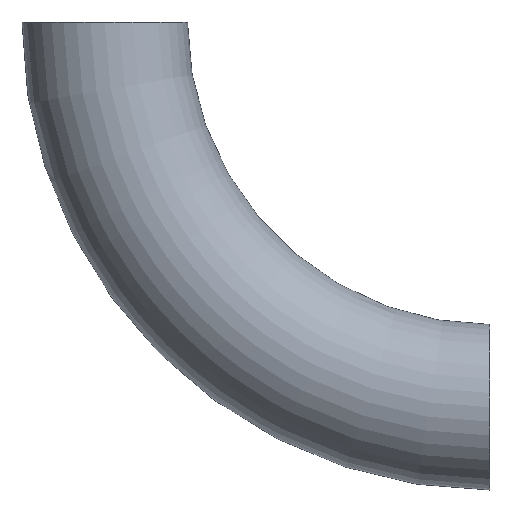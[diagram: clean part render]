
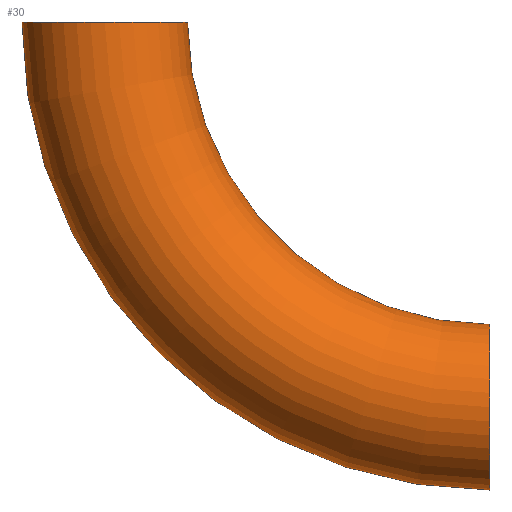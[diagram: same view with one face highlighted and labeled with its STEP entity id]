
A CAD part, front view. The second image highlights one B-rep face of the part: STEP entity #30.
In plain terms, the highlighted toroidal (fillet/blend) face has major radius 510 mm and minor radius 109.55 mm.
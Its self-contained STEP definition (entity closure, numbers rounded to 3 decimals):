
#5 = ORIENTED_EDGE ( 'NONE', *, *, #119, .F. ) ;
#6 = EDGE_LOOP ( 'NONE', ( #5, #180, #81, #160 ) ) ;
#8 = DIRECTION ( 'NONE',  ( 0., 0., 1. ) ) ;
#13 = CIRCLE ( 'NONE', #191, 619.55 ) ;
#20 = AXIS2_PLACEMENT_3D ( 'NONE', #245, #145, #93 ) ;
#23 = DIRECTION ( 'NONE',  ( 0., 1., 0. ) ) ;
#30 = ADVANCED_FACE ( 'NONE', ( #200 ), #198, .T. ) ;
#35 = CIRCLE ( 'NONE', #168, 109.55 ) ;
#38 = CIRCLE ( 'NONE', #182, 109.55 ) ;
#48 = CARTESIAN_POINT ( 'NONE',  ( 0., 0., -400.45 ) ) ;
#50 = CARTESIAN_POINT ( 'NONE',  ( -400.45, 0., 0. ) ) ;
#51 = CARTESIAN_POINT ( 'NONE',  ( 0., 0., 0. ) ) ;
#70 = DIRECTION ( 'NONE',  ( 0., 0., 1. ) ) ;
#80 = CIRCLE ( 'NONE', #20, 400.45 ) ;
#81 = ORIENTED_EDGE ( 'NONE', *, *, #113, .T. ) ;
#82 = VERTEX_POINT ( 'NONE', #88 ) ;
#88 = CARTESIAN_POINT ( 'NONE',  ( 0., 0., -619.55 ) ) ;
#93 = DIRECTION ( 'NONE',  ( 0., 0., 1. ) ) ;
#102 = VERTEX_POINT ( 'NONE', #223 ) ;
#106 = DIRECTION ( 'NONE',  ( 0., 0., 1. ) ) ;
#113 = EDGE_CURVE ( 'NONE', #197, #141, #80, .T. ) ;
#119 = EDGE_CURVE ( 'NONE', #82, #102, #13, .T. ) ;
#124 = EDGE_CURVE ( 'NONE', #82, #197, #35, .T. ) ;
#141 = VERTEX_POINT ( 'NONE', #50 ) ;
#144 = DIRECTION ( 'NONE',  ( 1., 0., 0. ) ) ;
#145 = DIRECTION ( 'NONE',  ( 0., 1., 0. ) ) ;
#160 = ORIENTED_EDGE ( 'NONE', *, *, #165, .F. ) ;
#163 = DIRECTION ( 'NONE',  ( -1., 0., 0. ) ) ;
#165 = EDGE_CURVE ( 'NONE', #102, #141, #38, .T. ) ;
#168 = AXIS2_PLACEMENT_3D ( 'NONE', #209, #163, #222 ) ;
#180 = ORIENTED_EDGE ( 'NONE', *, *, #124, .T. ) ;
#182 = AXIS2_PLACEMENT_3D ( 'NONE', #188, #8, #144 ) ;
#188 = CARTESIAN_POINT ( 'NONE',  ( -510., 0., 0. ) ) ;
#191 = AXIS2_PLACEMENT_3D ( 'NONE', #51, #242, #70 ) ;
#197 = VERTEX_POINT ( 'NONE', #48 ) ;
#198 = TOROIDAL_SURFACE ( 'NONE', #227, 510., 109.55 ) ;
#200 = FACE_OUTER_BOUND ( 'NONE', #6, .T. ) ;
#202 = CARTESIAN_POINT ( 'NONE',  ( 0., 0., 0. ) ) ;
#209 = CARTESIAN_POINT ( 'NONE',  ( 0., 0., -510. ) ) ;
#222 = DIRECTION ( 'NONE',  ( 0., 0., 1. ) ) ;
#223 = CARTESIAN_POINT ( 'NONE',  ( -619.55, 0., 0. ) ) ;
#227 = AXIS2_PLACEMENT_3D ( 'NONE', #202, #23, #106 ) ;
#242 = DIRECTION ( 'NONE',  ( 0., 1., 0. ) ) ;
#245 = CARTESIAN_POINT ( 'NONE',  ( 0., 0., 0. ) ) ;
